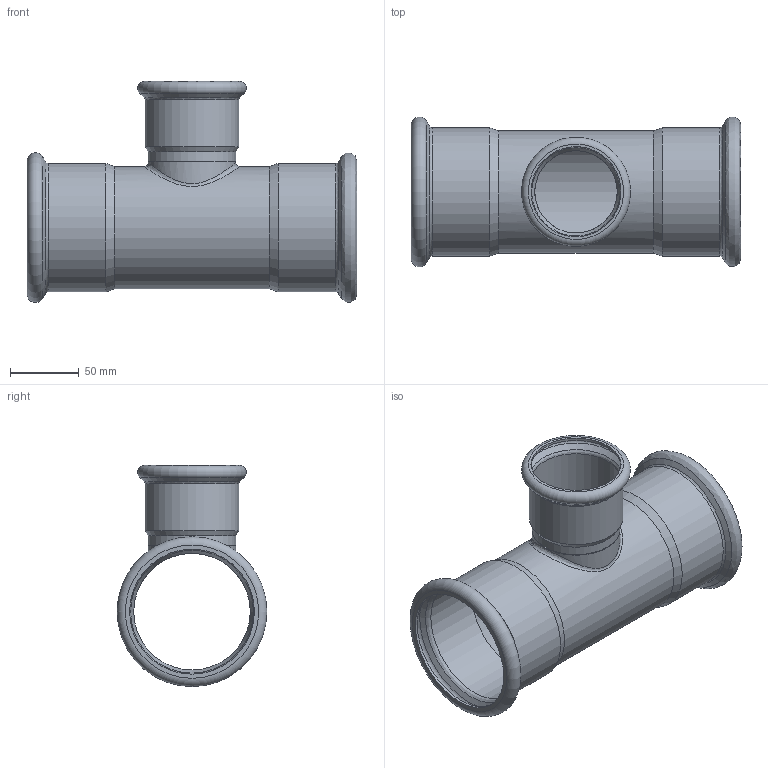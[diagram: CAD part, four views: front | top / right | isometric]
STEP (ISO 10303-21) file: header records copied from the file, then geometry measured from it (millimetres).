
FILE_DESCRIPTION((''),'2;1');
FILE_NAME('G:\Nirosan-Schmiedefeld\Technics\CAD\001 Serie 9.000\089\69130896489(0).stp','2018-10-16T10:35:54',('herberg'),(''),'Autodesk Inventor 2009','Autodesk Inventor 2009','');
FILE_SCHEMA(('AUTOMOTIVE_DESIGN { 1 0 10303 214 1 1 1 1 }'));
Length unit declared in the file: millimetre
Products named in the file (3): 69130896489(0); 69130896489LM(0); HM_6924364(0)
Assembly tree (2 placements, depth 2):
  69130896489(0)
    69130896489LM(0)
    HM_6924364(0)
Bounding box: 240 x 109.1 x 161.05 mm (x, y, z)
Volume: 172067.4 mm3; surface area: 174532.6 mm2
Topology: 2 solids, 2 shells, 49 faces, 96 edges, 55 vertices
Faces by surface type: bspline 19, cylinder 12, cone 8, plane 6, torus 4
Full cylindrical faces by diameter (mm): 60 x2, 64 x2, 64.4 x1, 65.7 x1, 68.4 x1, 84.9 x1, 88.9 x1, 89.5 x1, 91 x1, 93.5 x1
Entity records: 3506 total; most frequent: CARTESIAN_POINT 2649, DIRECTION 164, ORIENTED_EDGE 104, EDGE_LOOP 98, AXIS2_PLACEMENT_3D 82, EDGE_CURVE 52, VERTEX_POINT 50, FACE_OUTER_BOUND 49
